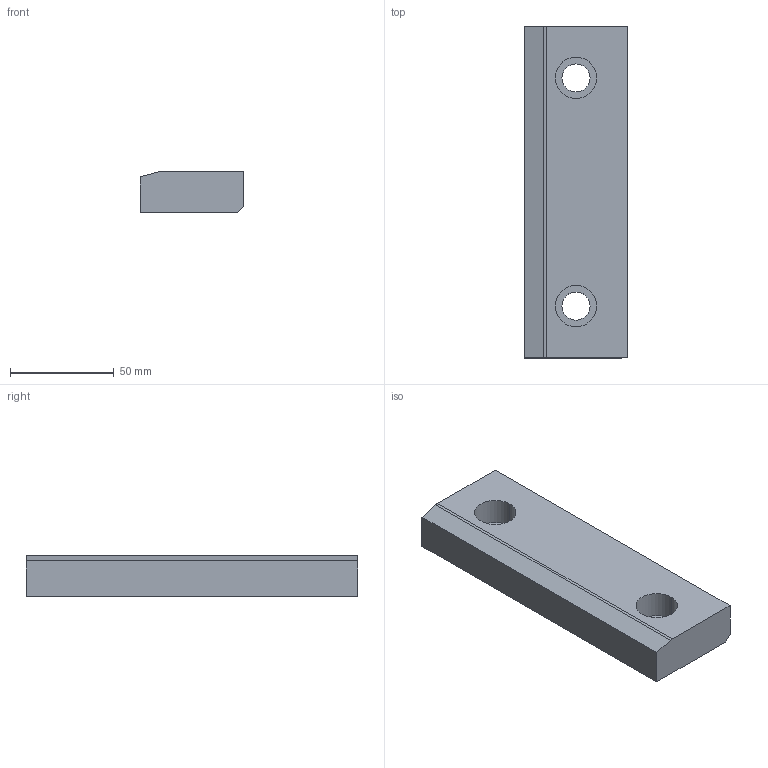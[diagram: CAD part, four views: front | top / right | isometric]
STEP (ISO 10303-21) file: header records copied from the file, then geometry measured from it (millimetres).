
FILE_DESCRIPTION (( 'STEP AP214' ), '1' );
FILE_NAME ('SW225-01-160x50.STEP', '2020-10-21T10:36:02', ( 'August' ), ( '' ), 'SwSTEP 2.0', 'SolidWorks 2018', '' );
FILE_SCHEMA (( 'AUTOMOTIVE_DESIGN' ));
Length unit declared in the file: millimetre
Products named in the file (1): SW225-01-160x50
Bounding box: 50 x 160 x 20 mm (x, y, z)
Volume: 146961.3 mm3; surface area: 25364.3 mm2
Topology: 1 solids, 1 shells, 19 faces, 45 edges, 30 vertices
Faces by surface type: plane 10, cylinder 9
Entity records: 599 total; most frequent: DIRECTION 103, CARTESIAN_POINT 95, ORIENTED_EDGE 90, EDGE_CURVE 45, AXIS2_PLACEMENT_3D 38, VERTEX_POINT 30, VECTOR 27, LINE 27
